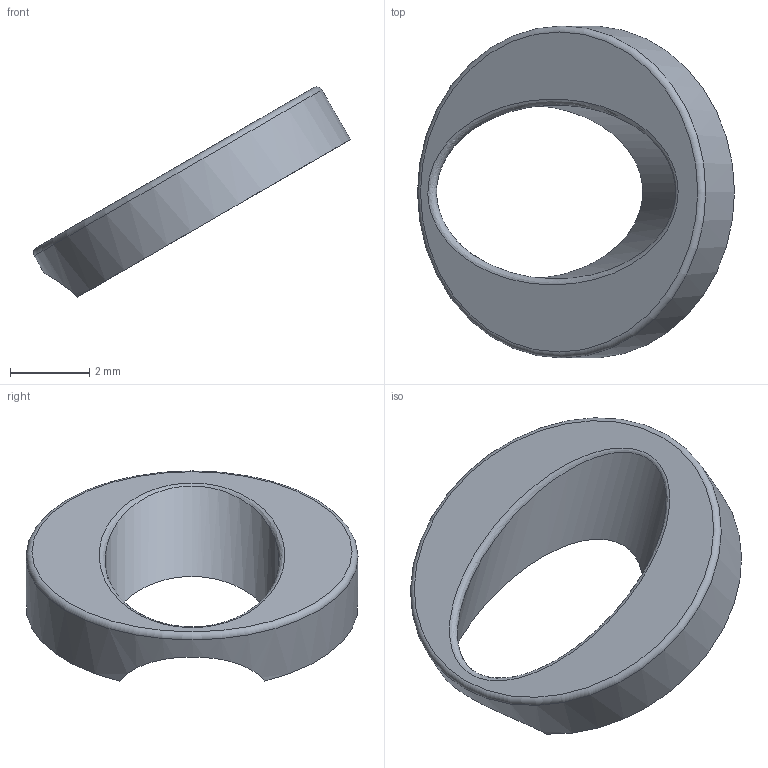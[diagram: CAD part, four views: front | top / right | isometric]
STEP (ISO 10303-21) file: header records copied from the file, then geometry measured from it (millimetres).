
FILE_DESCRIPTION(('Open CASCADE Model'),'2;1');
FILE_NAME('Open CASCADE Shape Model','2026-10-07T16:08:44',('Author'),( 'Open CASCADE'),'Open CASCADE STEP processor 7.9','Open CASCADE 7.9' ,'Unknown');
FILE_SCHEMA(('AUTOMOTIVE_DESIGN { 1 0 10303 214 1 1 1 1 }'));
Length unit declared in the file: millimetre
Products named in the file (1): Open CASCADE STEP translator 7.9 5
Bounding box: 8.02 x 8.4 x 5.32 mm (x, y, z)
Volume: 51.7 mm3; surface area: 132.4 mm2
Topology: 1 solids, 1 shells, 6 faces, 13 edges, 8 vertices
Faces by surface type: cylinder 2, plane 2, bspline 1, torus 1
Full cylindrical faces by diameter (mm): 4.4 x1, 8.4 x1
Entity records: 979 total; most frequent: CARTESIAN_POINT 710, DIRECTION 48, ORIENTED_EDGE 26, PCURVE 26, DEFINITIONAL_REPRESENTATION 26, LINE 17, VECTOR 17, AXIS2_PLACEMENT_3D 13
